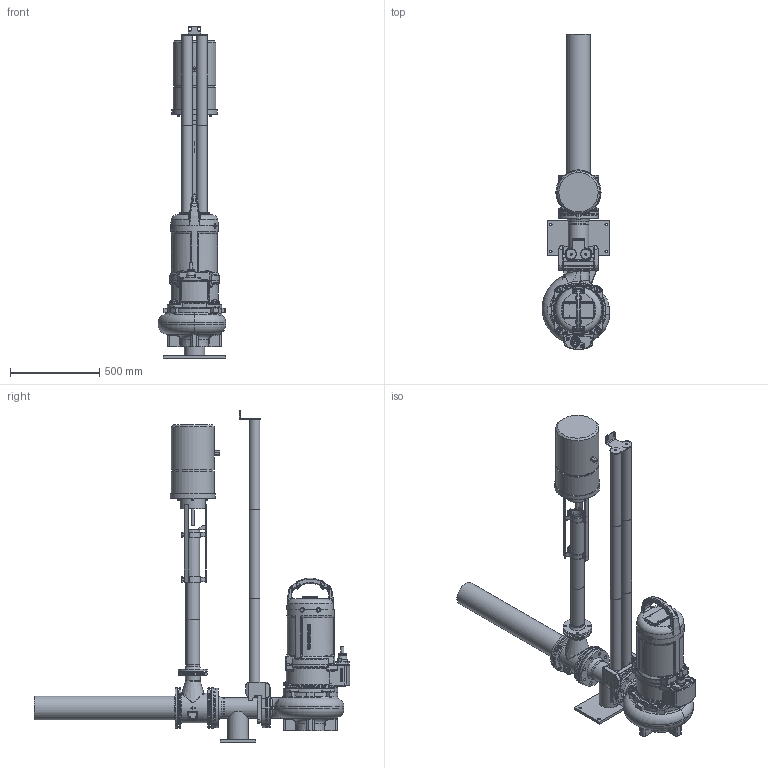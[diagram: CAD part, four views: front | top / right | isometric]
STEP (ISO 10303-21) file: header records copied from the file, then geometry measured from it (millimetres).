
FILE_DESCRIPTION(/* description */ (''),/* implementation_level */ '2;1');
FILE_NAME(/* name */ 'H:\3D\Projekte\@Wirbeljet\700 Amajet_2021_step\SewerAmajet_V_Rail_KA_16.stp',/* time_stamp */ '2021-04-12T22:43:08+02:00',/* author */ ('emmrpat'),/* organization */ (''),/* preprocessor_version */ 'ST-DEVELOPER v18',/* originating_system */ 'Autodesk Inventor 2020',/* authorisation */ '');
FILE_SCHEMA (('AUTOMOTIVE_DESIGN { 1 0 10303 214 3 1 1 }'));
Length unit declared in the file: millimetre
Products named in the file (47): SewerAmajet_V_Rail_KA_13; Dichtung1_DN100_5mm; Flansch_0W308059; 0W308365_Vari_01_Duese; Strahlrohr_133mm_800mm; 0W308365_Vari_01_Duese_1; Dichtung_DN100_5mm; Dichtung_DN65_4mm_110; 0W308366_800mm_Belueftung; 0W308366_800mm_Rohr; Vorschweißflansch_DN65_PN6; 0W382247_Mischkammer; Halterung KRT100-; KRT_100-250; UG155595214_01; ug1004874zmn001_01; ug1004383zmn001_01; ug1510147zmk001_01_BODY; ug1510095zmk001_01; ug1510137zmk001_01; ug1510136zmk001_01; ug1510110zmk001_01; UG154735011ZMM001_02; UG153885001ZMM001_01; ug1012584zmn001_01; ug1002091zmn001_01; UG154911611ZMM001_04; ISO 4032 - M16; ISO 7089 -  16; DIN 835 - M16 x 50; VX-Stuetzfuss_Stange; Konsole_Stange_82mm_einzeln; Hubmagnet; 01; 06; 08; 02; 03; 05; 04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
Assembly tree (94 placements, depth 4):
  SewerAmajet_V_Rail_KA_13
    Dichtung1_DN100_5mm
    Flansch_0W308059
    Dichtung_DN100_5mm  x2
    0W308365_Vari_01_Duese
    Strahlrohr_133mm_800mm
    0W308365_Vari_01_Duese_1
    Dichtung_DN65_4mm_110
    0W308366_800mm_Belueftung
      0W308366_800mm_Rohr
      Vorschweißflansch_DN65_PN6
    0W382247_Mischkammer
    Halterung KRT100-
    KRT_100-250
    UG155595214_01
      ug1004874zmn001_01  x4
      ug1004383zmn001_01  x2
      ug1510147zmk001_01_BODY
        ug1510095zmk001_01
        ug1510137zmk001_01  x12
        ug1510136zmk001_01
        ug1510110zmk001_01
      UG154735011ZMM001_02
      UG153885001ZMM001_01
      ug1012584zmn001_01
      ug1002091zmn001_01
      UG154911611ZMM001_04
      ISO 4032 - M16  x4
      ISO 7089 -  16  x4
      DIN 835 - M16 x 50  x4
    VX-Stuetzfuss_Stange
    Rohr_Stangenfuehrung_500mm  x6
    Konsole_Stange_82mm_einzeln
    Hubmagnet
      01
      06
      08
      02  x3
      03  x2
      05  x4
      04  x6
      07
      ISO 4017 - M10 x 35  x2
      ISO 4032 - M10  x2
      ISO 4032 - M8  x6
      Hubmagnet_1
      Rohr_DN65_1000mm
Bounding box: 378.15 x 1763.2 x 1857.15 mm (x, y, z)
Volume: 45080933.2 mm3; surface area: 6968577.6 mm2
Topology: 99 solids, 100 shells, 3332 faces, 8129 edges, 5034 vertices
Faces by surface type: plane 1102, cylinder 922, bspline 688, torus 329, cone 195, sphere 96
Full cylindrical faces by diameter (mm): 3 x12, 3.05 x2, 3.3 x1, 4 x12, 5 x12, 6 x12, 6.647 x6, 6.8 x1, 7 x24, 8 x11, 8.376 x2, 8.5 x6, 9.5 x6, 10 x8, 11 x10, 12 x10, 13 x4, 13.835 x10, 14 x8, 14.63 x2, 15.25 x1, 16 x15, 16.662 x1, 17 x4, 17.1 x1, 17.5 x4, 18 x27, 22 x1, 23 x1, 30 x4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
Entity records: 131306 total; most frequent: CARTESIAN_POINT 60188, ORIENTED_EDGE 14430, DIRECTION 14022, EDGE_CURVE 7215, AXIS2_PLACEMENT_3D 5769, VERTEX_POINT 4509, EDGE_LOOP 3344, CIRCLE 3122
